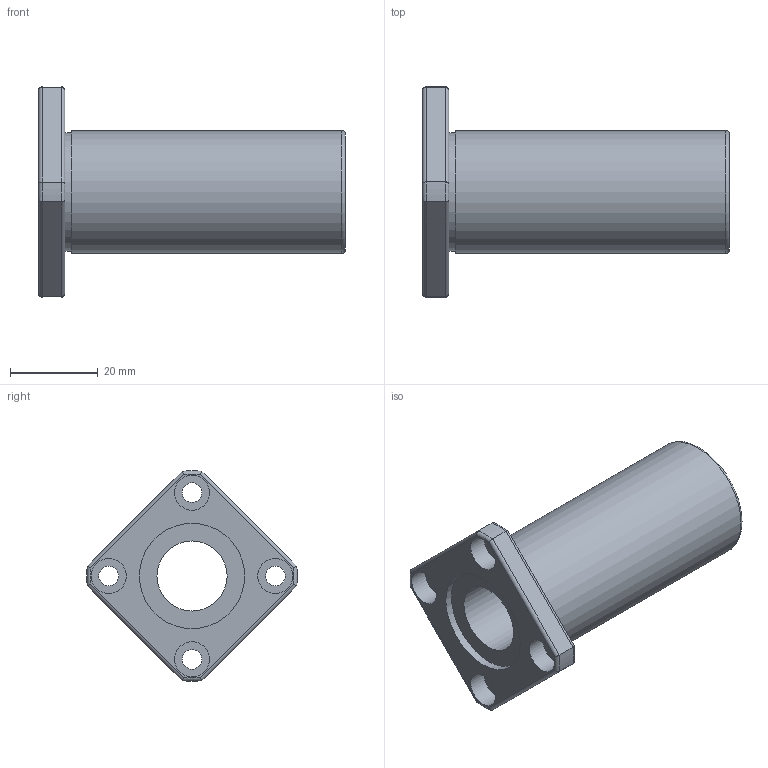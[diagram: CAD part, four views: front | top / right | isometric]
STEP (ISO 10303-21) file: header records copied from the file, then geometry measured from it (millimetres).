
FILE_DESCRIPTION( ( 'Unknown' ), '1' );
FILE_NAME( 'D:/累诀/己绕皋墨飘肺葱胶/11-04-06_档搁累己/01_府聪绢何教/LMK L/LMK 16L.stp', 'Unknown', ( 'Unknown' ), ( 'Unknown' ), 'PSStep 11.0', 'Unknown', ' ' );
FILE_SCHEMA( ( 'AUTOMOTIVE_DESIGN { 1 0 10303 214 1 1 1 1 }' ) );
Length unit declared in the file: millimetre
Products named in the file (1): 1
Bounding box: 70 x 47.99 x 47.98 mm (x, y, z)
Volume: 31400.5 mm3; surface area: 12741.3 mm2
Topology: 1 solids, 1 shells, 48 faces, 105 edges, 67 vertices
Faces by surface type: cylinder 25, plane 14, torus 9
Full cylindrical faces by diameter (mm): 4.5 x4, 8 x4, 16 x1, 24 x2, 27 x1, 28 x1
Entity records: 1718 total; most frequent: CARTESIAN_POINT 311, DIRECTION 216, ORIENTED_EDGE 174, AXIS2_PLACEMENT_3D 96, EDGE_CURVE 87, EDGE_LOOP 80, VERTEX_POINT 63, FACE_OUTER_BOUND 62
